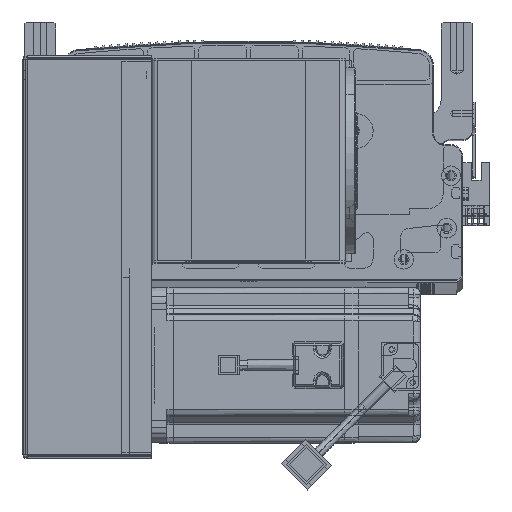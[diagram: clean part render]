
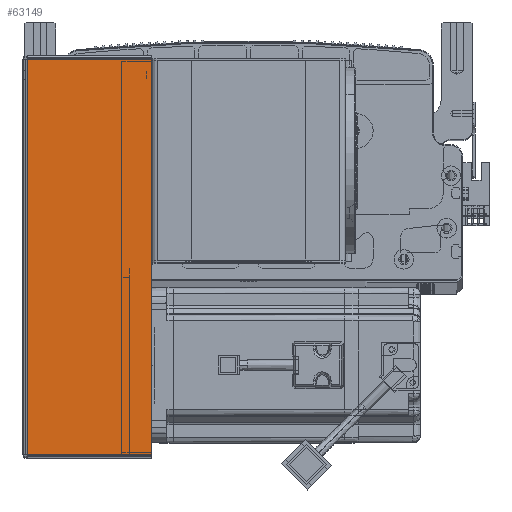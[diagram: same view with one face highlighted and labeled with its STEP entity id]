
A CAD part, top view. The second image highlights one B-rep face of the part: STEP entity #63149.
In plain terms, the highlighted planar face has unit normal (0, 0, 1) as drawn and (0, -1, 0) by its records, which use the part's own axes.
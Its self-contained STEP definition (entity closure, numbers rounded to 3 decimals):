
#4363 = DIRECTION ( 'NONE',  ( 0., 1., 0. ) ) ;
#6838 = DIRECTION ( 'NONE',  ( 1., 0., 0. ) ) ;
#10871 = CARTESIAN_POINT ( 'NONE',  ( 0., -1.5, 0. ) ) ;
#20466 = VERTEX_POINT ( 'NONE', #54840 ) ;
#21174 = CARTESIAN_POINT ( 'NONE',  ( 0.737, -1.5, -0.707 ) ) ;
#21319 = CARTESIAN_POINT ( 'NONE',  ( 0., -1.5, -0.707 ) ) ;
#23934 = LINE ( 'NONE', #67314, #32450 ) ;
#24102 = AXIS2_PLACEMENT_3D ( 'NONE', #10871, #4363, #49747 ) ;
#32450 = VECTOR ( 'NONE', #43529, 1000. ) ;
#32839 = CARTESIAN_POINT ( 'NONE',  ( 64.5, -1.5, 0. ) ) ;
#37030 = VERTEX_POINT ( 'NONE', #100606 ) ;
#37357 = LINE ( 'NONE', #91038, #58103 ) ;
#40706 = ORIENTED_EDGE ( 'NONE', *, *, #64028, .T. ) ;
#42141 = VECTOR ( 'NONE', #66998, 1000. ) ;
#43282 = VERTEX_POINT ( 'NONE', #44638 ) ;
#43529 = DIRECTION ( 'NONE',  ( 0., 0., 1. ) ) ;
#44638 = CARTESIAN_POINT ( 'NONE',  ( 64.5, -1.5, -0.707 ) ) ;
#45990 = VERTEX_POINT ( 'NONE', #21174 ) ;
#49747 = DIRECTION ( 'NONE',  ( -1., 0., 0. ) ) ;
#51351 = EDGE_CURVE ( 'NONE', #20466, #43282, #76859, .T. ) ;
#54840 = CARTESIAN_POINT ( 'NONE',  ( 64.5, -1.5, -203.293 ) ) ;
#58103 = VECTOR ( 'NONE', #6838, 1000. ) ;
#62261 = ORIENTED_EDGE ( 'NONE', *, *, #89112, .F. ) ;
#63149 = ADVANCED_FACE ( 'NONE', ( #92348 ), #81055, .F. ) ;
#64028 = EDGE_CURVE ( 'NONE', #37030, #20466, #37357, .T. ) ;
#64426 = EDGE_CURVE ( 'NONE', #45990, #43282, #68899, .T. ) ;
#66998 = DIRECTION ( 'NONE',  ( 1., 0., 0. ) ) ;
#67314 = CARTESIAN_POINT ( 'NONE',  ( 0.737, -1.5, 0. ) ) ;
#68899 = LINE ( 'NONE', #21319, #42141 ) ;
#74357 = EDGE_LOOP ( 'NONE', ( #62261, #40706, #89253, #87068 ) ) ;
#76859 = LINE ( 'NONE', #32839, #97603 ) ;
#79241 = DIRECTION ( 'NONE',  ( 0., 0., 1. ) ) ;
#81055 = PLANE ( 'NONE',  #24102 ) ;
#87068 = ORIENTED_EDGE ( 'NONE', *, *, #64426, .F. ) ;
#89112 = EDGE_CURVE ( 'NONE', #37030, #45990, #23934, .T. ) ;
#89253 = ORIENTED_EDGE ( 'NONE', *, *, #51351, .T. ) ;
#91038 = CARTESIAN_POINT ( 'NONE',  ( 0., -1.5, -203.293 ) ) ;
#92348 = FACE_OUTER_BOUND ( 'NONE', #74357, .T. ) ;
#97603 = VECTOR ( 'NONE', #79241, 1000. ) ;
#100606 = CARTESIAN_POINT ( 'NONE',  ( 0.737, -1.5, -203.293 ) ) ;
